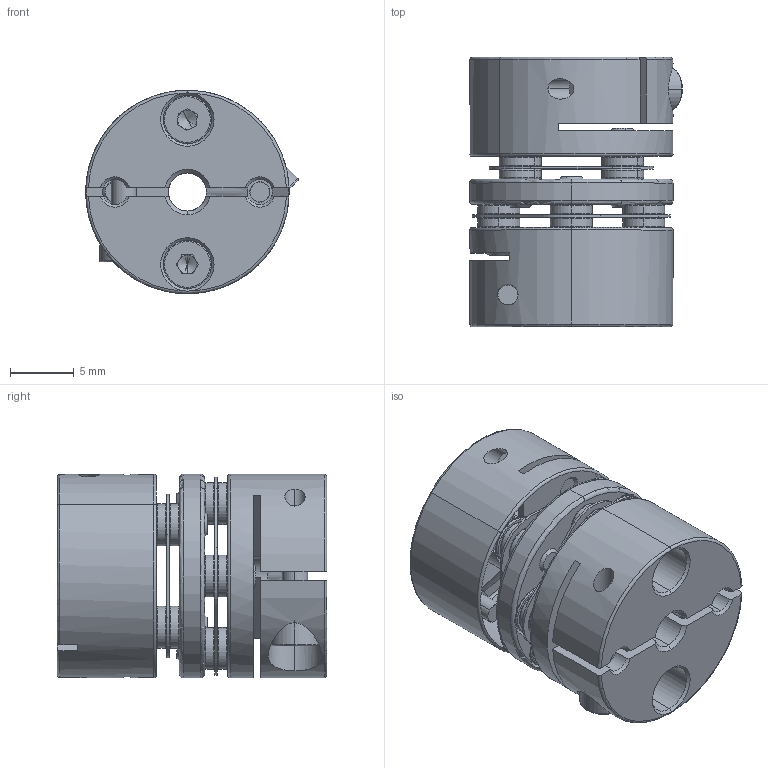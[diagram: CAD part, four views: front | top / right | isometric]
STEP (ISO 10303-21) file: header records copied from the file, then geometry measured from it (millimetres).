
FILE_DESCRIPTION (( 'STEP AP203' ), '1' );
FILE_NAME ('SDWB-16C-3X5_203.STEP', '2013-01-07T01:47:14', ( '' ), ( '' ), 'SwSTEP 2.0', 'SolidWorks 2012', '' );
FILE_SCHEMA (( 'CONFIG_CONTROL_DESIGN' ));
Length unit declared in the file: millimetre
Products named in the file (1): SDWB-16C-3X5_203
Bounding box: 16.73 x 21.2 x 16 mm (x, y, z)
Volume: 2868.9 mm3; surface area: 3784.4 mm2
Topology: 1 solids, 33 shells, 763 faces, 1873 edges, 1144 vertices
Faces by surface type: cylinder 231, plane 228, cone 166, torus 138
Entity records: 23126 total; most frequent: DIRECTION 4369, CARTESIAN_POINT 4267, ORIENTED_EDGE 3706, EDGE_CURVE 1853, AXIS2_PLACEMENT_3D 1820, VERTEX_POINT 1144, CIRCLE 1056, EDGE_LOOP 857
